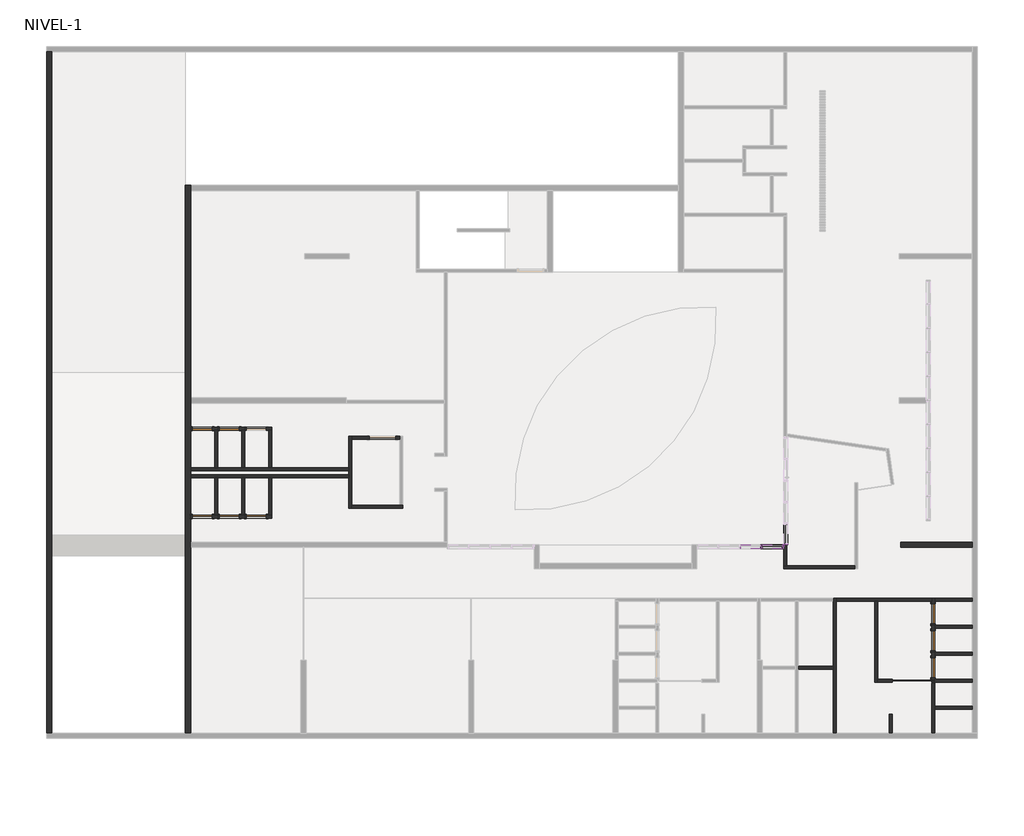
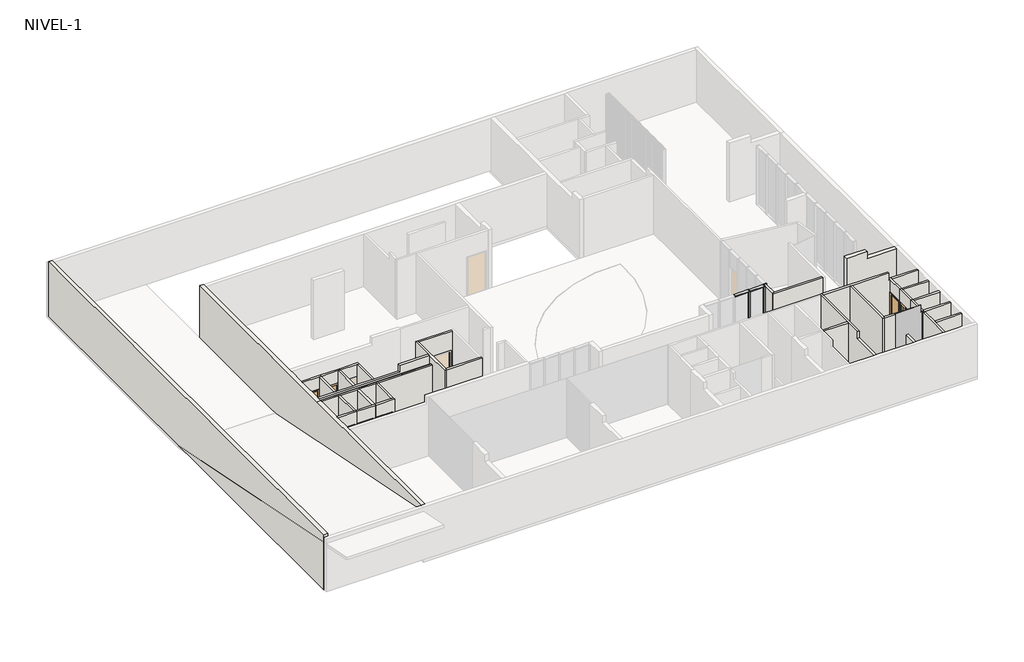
# One storey, part 2 of 4: 37 walls, 10 members, 8 doors, 2 plates.
"""IFC4 building model written with IfcOpenShell, lengths in millimetres."""

from ifc_helpers import new_model, si_unit, frame, origin, place, context, project, spatial, polyline, outline, extrude, faceted_brep, transform, mapped, element, save
from components import m_single_flush_750x_225_070f6889, m_single_flush_750x_225_ddc8b89c, rectangular_mullion_50_x_150mm_86a57cfb, rectangular_mullion_50_x_150mm_ddcdbc05, rectangular_mullion_50_x_150mm_77bbb7d4, rectangular_mullion_50_x_150mm_d1ed8723, rectangular_mullion_50_x_150mm_c6357429, rectangular_mullion_50_x_150mm_548d5156, system_panel_cr_shower_f60a3f7b, system_panel_glazed_255c200d

model = new_model("IFC4")

# Units and contexts
model_context = context("Model", 3, world=origin())
ifc_project = project(units=[si_unit("LENGTHUNIT", "METRE", prefix="MILLI")], contexts=[model_context])

# Site, building, storey
site = spatial("IfcSite", under=ifc_project)
building = spatial("IfcBuilding", under=site)
storey = spatial("IfcBuildingStorey", under=building, Name="NIVEL-1", Elevation=-4500.0)

# Doors
placement = place(None, origin())
m_single_flush_750x_225_shape = m_single_flush_750x_225_070f6889(model_context)
element("IfcDoor", 1, ObjectType="M_Single-Flush : 750x 225", at=placement, inside=storey, context=model_context, shape_type="MappedRepresentation", body=[
    mapped(m_single_flush_750x_225_shape, transform((-22659.3934748, 788.9139241, -4500.0), x_axis=(-1.0, 0.0, 0.0), y_axis=(0.0, -1.0, 0.0), z_axis=(0.0, 0.0, 1.0))),
])
element("IfcDoor", 2, ObjectType="M_Single-Flush : 750x 225", at=placement, inside=storey, context=model_context, shape_type="MappedRepresentation", body=[
    mapped(m_single_flush_750x_225_shape, transform((-21649.3934748, 788.9139241, -4500.0), x_axis=(-1.0, 0.0, 0.0), y_axis=(0.0, -1.0, 0.0), z_axis=(0.0, 0.0, 1.0))),
])
element("IfcDoor", 3, ObjectType="M_Single-Flush : 750x 225", at=placement, inside=storey, context=model_context, shape_type="MappedRepresentation", body=[
    mapped(m_single_flush_750x_225_shape, transform((-20639.3934748, 788.9139241, -4500.0), x_axis=(-1.0, 0.0, 0.0), y_axis=(0.0, -1.0, 0.0), z_axis=(0.0, 0.0, 1.0))),
])
m_single_flush_750x_225_2_shape = m_single_flush_750x_225_ddc8b89c(model_context)
element("IfcDoor", 4, ObjectType="M_Single-Flush : 750x 225", at=placement, inside=storey, context=model_context, shape_type="MappedRepresentation", body=[
    mapped(m_single_flush_750x_225_2_shape, transform((-22659.3934748, 4078.9139241, -4500.0), x_axis=(-1.0, 0.0, 0.0), y_axis=(0.0, -1.0, 0.0), z_axis=(0.0, 0.0, 1.0))),
])
element("IfcDoor", 5, ObjectType="M_Single-Flush : 750x 225", at=placement, inside=storey, context=model_context, shape_type="MappedRepresentation", body=[
    mapped(m_single_flush_750x_225_2_shape, transform((-21649.3934748, 4078.9139241, -4500.0), x_axis=(-1.0, 0.0, 0.0), y_axis=(0.0, -1.0, 0.0), z_axis=(0.0, 0.0, 1.0))),
])
element("IfcDoor", 6, ObjectType="M_Single-Flush : 750x 225", at=placement, inside=storey, context=model_context, shape_type="MappedRepresentation", body=[
    mapped(m_single_flush_750x_225_2_shape, transform((4706.4065252, -4871.0860759, -4500.0), x_axis=(0.0, -1.0, 0.0), y_axis=(1.0, 0.0, 0.0), z_axis=(0.0, 0.0, 1.0))),
])
element("IfcDoor", 7, ObjectType="M_Single-Flush : 750x 225", at=placement, inside=storey, context=model_context, shape_type="MappedRepresentation", body=[
    mapped(m_single_flush_750x_225_2_shape, transform((4706.4065252, -3861.0860759, -4500.0), x_axis=(0.0, -1.0, 0.0), y_axis=(1.0, 0.0, 0.0), z_axis=(0.0, 0.0, 1.0))),
])
element("IfcDoor", 8, ObjectType="M_Single-Flush : 750x 225", at=placement, inside=storey, context=model_context, shape_type="MappedRepresentation", body=[
    mapped(m_single_flush_750x_225_2_shape, transform((4706.4065252, -2851.0860759, -4500.0), x_axis=(0.0, -1.0, 0.0), y_axis=(1.0, 0.0, 0.0), z_axis=(0.0, 0.0, 1.0))),
])

# Members
rectangular_mullion_50_x_150mm_shape = rectangular_mullion_50_x_150mm_86a57cfb(model_context)
element("IfcMember", 9, ObjectType="Rectangular Mullion : 50 x 150mm", at=placement, inside=storey, context=model_context, shape_type="MappedRepresentation", body=[
    mapped(rectangular_mullion_50_x_150mm_shape, transform((-1718.5934745, -341.0860759, -4520.0), x_axis=(1.0, 0.0, 0.0), y_axis=(0.0, -1.0, 0.0), z_axis=(0.0, 0.0, -1.0))),
])
element("IfcMember", 10, ObjectType="Rectangular Mullion : 50 x 150mm", at=placement, inside=storey, context=model_context, shape_type="MappedRepresentation", body=[
    mapped(rectangular_mullion_50_x_150mm_shape, transform((-913.5934745, -341.0860759, -4520.0), x_axis=(1.0, 0.0, 0.0), y_axis=(0.0, -1.0, 0.0), z_axis=(0.0, 0.0, -1.0))),
])
rectangular_mullion_50_x_150mm_2_shape = rectangular_mullion_50_x_150mm_ddcdbc05(model_context)
element("IfcMember", 11, ObjectType="Rectangular Mullion : 50 x 150mm", at=placement, inside=storey, context=model_context, shape_type="MappedRepresentation", body=[
    mapped(rectangular_mullion_50_x_150mm_2_shape, transform((-808.5934748, -226.0860763, -4520.0), x_axis=(0.0, 0.0, -1.0), y_axis=(1.0, 0.0, 0.0), z_axis=(0.0, -1.0, 0.0))),
])
rectangular_mullion_50_x_150mm_3_shape = rectangular_mullion_50_x_150mm_77bbb7d4(model_context)
element("IfcMember", 12, ObjectType="Rectangular Mullion : 50 x 150mm", at=placement, inside=storey, context=model_context, shape_type="MappedRepresentation", body=[
    mapped(rectangular_mullion_50_x_150mm_3_shape, transform((-1743.5934745, -341.0860759, -1170.0), x_axis=(0.0, 0.0, 1.0), y_axis=(0.0, -1.0, 0.0), z_axis=(1.0, 0.0, 0.0))),
])
element("IfcMember", 13, ObjectType="Rectangular Mullion : 50 x 150mm", at=placement, inside=storey, context=model_context, shape_type="MappedRepresentation", body=[
    mapped(rectangular_mullion_50_x_150mm_3_shape, transform((-938.5934745, -341.0860759, -1170.0), x_axis=(0.0, 0.0, 1.0), y_axis=(0.0, -1.0, 0.0), z_axis=(1.0, 0.0, 0.0))),
])
element("IfcMember", 14, ObjectType="Rectangular Mullion : 50 x 150mm", at=placement, inside=storey, context=model_context, shape_type="MappedRepresentation", body=[
    mapped(rectangular_mullion_50_x_150mm_3_shape, transform((-1693.5934745, -341.0860759, -4520.0), x_axis=(0.0, 0.0, -1.0), y_axis=(0.0, -1.0, 0.0), z_axis=(-1.0, 0.0, 0.0))),
])
rectangular_mullion_50_x_150mm_4_shape = rectangular_mullion_50_x_150mm_d1ed8723(model_context)
element("IfcMember", 15, ObjectType="Rectangular Mullion : 50 x 150mm", at=placement, inside=storey, context=model_context, shape_type="MappedRepresentation", body=[
    mapped(rectangular_mullion_50_x_150mm_4_shape, transform((-883.5934748, -341.0860759, -1170.0), x_axis=(0.0, 0.0, 1.0), y_axis=(0.0, -1.0, 0.0), z_axis=(1.0, 0.0, 0.0))),
])
element("IfcMember", 16, ObjectType="Rectangular Mullion : 50 x 150mm", at=placement, inside=storey, context=model_context, shape_type="MappedRepresentation", body=[
    mapped(rectangular_mullion_50_x_150mm_4_shape, transform((-888.5934745, -341.0860759, -4520.0), x_axis=(0.0, 0.0, -1.0), y_axis=(0.0, -1.0, 0.0), z_axis=(-1.0, 0.0, 0.0))),
])
rectangular_mullion_50_x_150mm_5_shape = rectangular_mullion_50_x_150mm_c6357429(model_context)
element("IfcMember", 17, ObjectType="Rectangular Mullion : 50 x 150mm", at=placement, inside=storey, context=model_context, shape_type="MappedRepresentation", body=[
    mapped(rectangular_mullion_50_x_150mm_5_shape, transform((-808.5934748, -276.0860763, -1170.0), x_axis=(0.0, -1.0, 0.0), y_axis=(1.0, 0.0, 0.0), z_axis=(0.0, 0.0, 1.0))),
])
rectangular_mullion_50_x_150mm_6_shape = rectangular_mullion_50_x_150mm_548d5156(model_context)
element("IfcMember", 18, ObjectType="Rectangular Mullion : 50 x 150mm", at=placement, inside=storey, context=model_context, shape_type="MappedRepresentation", body=[
    mapped(rectangular_mullion_50_x_150mm_6_shape, transform((-808.5934748, -276.0860763, -2075.0), x_axis=(0.0, -1.0, 0.0), y_axis=(1.0, 0.0, 0.0), z_axis=(0.0, 0.0, 1.0))),
])

# Plates
system_panel_cr_shower_shape = system_panel_cr_shower_f60a3f7b(model_context)
element("IfcPlate", 19, ObjectType="System Panel : CR-SHOWER", at=placement, inside=storey, context=model_context, shape_type="MappedRepresentation", body=[
    mapped(system_panel_cr_shower_shape, transform((3941.4065252, -5357.0860759, -4520.0), x_axis=(1.0, 0.0, 0.0), y_axis=(0.0, 1.0, 0.0), z_axis=(0.0, 0.0, 1.0))),
])
system_panel_glazed_shape = system_panel_glazed_255c200d(model_context)
element("IfcPlate", 20, ObjectType="System Panel : Glazed", at=placement, inside=storey, context=model_context, shape_type="MappedRepresentation", body=[
    mapped(system_panel_glazed_shape, transform((-886.0934747, -341.0860759, -4470.0), x_axis=(1.0, 0.0, 0.0), y_axis=(0.0, 1.0, 0.0), z_axis=(0.0, 0.0, 1.0))),
])

# Walls
element("IfcWall", 21, ObjectType="SCV.TI.A.110.090.143.47.1", at=placement, inside=storey, context=model_context, shape_type="Brep", body=[
    faceted_brep([(-23084.3934748, 2508.9139241, -4520.0), (-17163.5934748, 2508.9139241, -4520.0), (-17163.5934748, 2508.9139241, -1170.0), (-18758.5934748, 2508.9139241, -1170.0), (-18758.5934748, 2508.9139241, -1550.0), (-23084.3934748, 2508.9139241, -1550.0), (-23084.3934748, 2618.9139241, -4520.0), (-23084.3934748, 2618.9139241, -1550.0), (-22184.3934748, 2618.9139241, -1550.0), (-22074.3934748, 2618.9139241, -1550.0), (-21174.3934748, 2618.9139241, -1550.0), (-21064.3934748, 2618.9139241, -1550.0), (-20164.3934748, 2618.9139241, -1550.0), (-20054.3934748, 2618.9139241, -1550.0), (-18758.5934748, 2618.9139241, -1550.0), (-18758.5934748, 2618.9139241, -1170.0), (-17163.5934748, 2618.9139241, -1170.0), (-17163.5934748, 2618.9139241, -4520.0), (-20054.3934748, 2618.9139241, -4520.0), (-20164.3934748, 2618.9139241, -4520.0), (-21064.3934748, 2618.9139241, -4520.0), (-21174.3934748, 2618.9139241, -4520.0), (-22074.3934748, 2618.9139241, -4520.0), (-22184.3934748, 2618.9139241, -4520.0)], [[[0, 1, 2, 3, 4, 5]], [[6, 7, 8, 9, 10, 11, 12, 13, 14, 15, 16, 17, 18, 19, 20, 21, 22, 23]], [[1, 0, 6, 23, 22, 21, 20, 19, 18, 17]], [[0, 5, 7, 6]], [[2, 1, 17, 16]], [[3, 2, 16, 15]], [[3, 15, 14, 4]], [[5, 4, 14, 13, 12, 11, 10, 9, 8, 7]]]),
])
element("IfcWall", 22, ObjectType="SCV.TI.A.110.090.143.47.1", at=placement, inside=storey, context=model_context, shape_type="Brep", body=[
    faceted_brep([(-17163.5934748, 2358.9139241, -4520.0), (-23084.3934748, 2358.9139241, -4520.0), (-23084.3934748, 2358.9139241, -1550.0), (-18758.5934748, 2358.9139241, -1550.0), (-17163.5934748, 2358.9139241, -1550.0), (-17163.5934748, 2248.9139241, -4520.0), (-17163.5934748, 2248.9139241, -1550.0), (-18758.5934748, 2248.9139241, -1550.0), (-20054.3934748, 2248.9139241, -1550.0), (-20164.3934748, 2248.9139241, -1550.0), (-21064.3934748, 2248.9139241, -1550.0), (-21174.3934748, 2248.9139241, -1550.0), (-22074.3934748, 2248.9139241, -1550.0), (-22184.3934748, 2248.9139241, -1550.0), (-23084.3934748, 2248.9139241, -1550.0), (-23084.3934748, 2248.9139241, -4520.0), (-22184.3934748, 2248.9139241, -4520.0), (-22074.3934748, 2248.9139241, -4520.0), (-21174.3934748, 2248.9139241, -4520.0), (-21064.3934748, 2248.9139241, -4520.0), (-20164.3934748, 2248.9139241, -4520.0), (-20054.3934748, 2248.9139241, -4520.0), (-23084.3934748, 2333.9139237, -1550.0), (-17163.5934748, 2333.9139237, -1550.0), (-18758.5934748, 2333.9139237, -1550.0)], [[[0, 1, 2, 3, 4]], [[5, 6, 7, 8, 9, 10, 11, 12, 13, 14, 15, 16, 17, 18, 19, 20, 21]], [[1, 0, 5, 21, 20, 19, 18, 17, 16, 15]], [[2, 1, 15, 14, 22]], [[0, 4, 23, 6, 5]], [[22, 14, 13, 12, 11, 10, 9, 8, 7, 24]], [[4, 3, 24, 23]], [[24, 7, 6, 23]], [[3, 2, 22, 24]]]),
])
element("IfcWall", 23, ObjectType="SCV.TI.A.110.090.143.47.1", at=placement, inside=storey, context=model_context, shape_type="Brep", body=[
    faceted_brep([(-17163.5934748, 3788.9139241, -4520.0), (-17163.5934748, 2618.9139241, -4520.0), (-17163.5934748, 2508.9139241, -4520.0), (-17163.5934748, 2358.9139241, -4520.0), (-17163.5934748, 2248.9139241, -4520.0), (-17163.5934748, 1093.9139241, -4520.0), (-17163.5934748, 1093.9139241, -1170.0), (-17163.5934748, 2508.9139241, -1170.0), (-17163.5934748, 2618.9139241, -1170.0), (-17163.5934748, 3788.9139241, -1170.0), (-17053.5934748, 3788.9139241, -4520.0), (-17053.5934748, 3788.9139241, -1170.0), (-17053.5934748, 3678.9139241, -1170.0), (-17053.5934748, 1203.9139241, -1170.0), (-17053.5934748, 1093.9139241, -1170.0), (-17053.5934748, 1093.9139241, -4520.0), (-17053.5934748, 1203.9139241, -4520.0), (-17053.5934748, 3678.9139241, -4520.0)], [[[0, 1, 2, 3, 4, 5, 6, 7, 8, 9]], [[10, 11, 12, 13, 14, 15, 16, 17]], [[5, 4, 3, 2, 1, 0, 10, 17, 16, 15]], [[9, 8, 7, 6, 14, 13, 12, 11]], [[0, 9, 11, 10]], [[6, 5, 15, 14]]]),
])
element("IfcWall", 24, ObjectType="SCV.TI.A.110.090.143.47.1", at=placement, inside=storey, context=model_context, shape_type="Brep", body=[
    faceted_brep([(-23084.3934748, 733.9139241, -4520.0), (-22074.3934748, 733.9139241, -4520.0), (-22074.3934748, 733.9139241, -1550.0), (-23084.3934748, 733.9139241, -1550.0), (-22284.3934748, 733.9139241, -4500.0), (-23034.3934748, 733.9139241, -4500.0), (-23034.3934748, 733.9139241, -2300.0), (-22284.3934748, 733.9139241, -2300.0), (-22074.3934748, 843.9139241, -4520.0), (-22184.3934748, 843.9139241, -4520.0), (-23084.3934748, 843.9139241, -4520.0), (-23084.3934748, 843.9139241, -1550.0), (-22184.3934748, 843.9139241, -1550.0), (-22074.3934748, 843.9139241, -1550.0), (-23034.3934748, 843.9139241, -4500.0), (-22284.3934748, 843.9139241, -4500.0), (-22284.3934748, 843.9139241, -2300.0), (-23034.3934748, 843.9139241, -2300.0)], [[[0, 1, 2, 3], [4, 5, 6, 7]], [[8, 9, 10, 11, 12, 13], [14, 15, 16, 17]], [[1, 0, 10, 9, 8]], [[4, 15, 14, 5]], [[6, 17, 16, 7]], [[15, 4, 7, 16]], [[17, 6, 5, 14]], [[2, 1, 8, 13]], [[0, 3, 11, 10]], [[3, 2, 13, 12, 11]]]),
])
element("IfcWall", 25, ObjectType="SCV.TI.A.110.090.143.47.1", at=placement, inside=storey, context=model_context, shape_type="SweptSolid", body=[
    extrude(outline(polyline([(-22074.3934748, 2248.9139241), (-22074.3934748, 843.9139241), (-22184.3934748, 843.9139241), (-22184.3934748, 2248.9139241), (-22074.3934748, 2248.9139241)])), frame((0.0, 0.0, -4520.0), z_axis=(0.0, 0.0, 1.0), x_axis=(1.0, 0.0, 0.0)), (0.0, 0.0, 1.0), 2970.0),
])
element("IfcWall", 26, ObjectType="SCV.TI.A.110.090.143.47.1", at=placement, inside=storey, context=model_context, shape_type="Brep", body=[
    faceted_brep([(-22074.3934748, 733.9139241, -4520.0), (-21064.3934748, 733.9139241, -4520.0), (-21064.3934748, 733.9139241, -1550.0), (-22074.3934748, 733.9139241, -1550.0), (-21274.3934748, 733.9139241, -4500.0), (-22024.3934748, 733.9139241, -4500.0), (-22024.3934748, 733.9139241, -2300.0), (-21274.3934748, 733.9139241, -2300.0), (-21064.3934748, 843.9139241, -4520.0), (-21174.3934748, 843.9139241, -4520.0), (-22074.3934748, 843.9139241, -4520.0), (-22074.3934748, 843.9139241, -1550.0), (-21174.3934748, 843.9139241, -1550.0), (-21064.3934748, 843.9139241, -1550.0), (-22024.3934748, 843.9139241, -4500.0), (-21274.3934748, 843.9139241, -4500.0), (-21274.3934748, 843.9139241, -2300.0), (-22024.3934748, 843.9139241, -2300.0)], [[[0, 1, 2, 3], [4, 5, 6, 7]], [[8, 9, 10, 11, 12, 13], [14, 15, 16, 17]], [[1, 0, 10, 9, 8]], [[4, 15, 14, 5]], [[6, 17, 16, 7]], [[15, 4, 7, 16]], [[17, 6, 5, 14]], [[2, 1, 8, 13]], [[0, 3, 11, 10]], [[3, 2, 13, 12, 11]]]),
])
element("IfcWall", 27, ObjectType="SCV.TI.A.110.090.143.47.1", at=placement, inside=storey, context=model_context, shape_type="SweptSolid", body=[
    extrude(outline(polyline([(-21064.3934748, 2248.9139241), (-21064.3934748, 843.9139241), (-21174.3934748, 843.9139241), (-21174.3934748, 2248.9139241), (-21064.3934748, 2248.9139241)])), frame((0.0, 0.0, -4520.0), z_axis=(0.0, 0.0, 1.0), x_axis=(1.0, 0.0, 0.0)), (0.0, 0.0, 1.0), 2970.0),
])
element("IfcWall", 28, ObjectType="SCV.TI.A.110.090.143.47.1", at=placement, inside=storey, context=model_context, shape_type="Brep", body=[
    faceted_brep([(-21064.3934748, 733.9139241, -4520.0), (-20054.3934748, 733.9139241, -4520.0), (-20054.3934748, 733.9139241, -1550.0), (-21064.3934748, 733.9139241, -1550.0), (-20264.3934748, 733.9139241, -4500.0), (-21014.3934748, 733.9139241, -4500.0), (-21014.3934748, 733.9139241, -2300.0), (-20264.3934748, 733.9139241, -2300.0), (-20054.3934748, 843.9139241, -4520.0), (-20164.3934748, 843.9139241, -4520.0), (-21064.3934748, 843.9139241, -4520.0), (-21064.3934748, 843.9139241, -1550.0), (-20164.3934748, 843.9139241, -1550.0), (-20054.3934748, 843.9139241, -1550.0), (-21014.3934748, 843.9139241, -4500.0), (-20264.3934748, 843.9139241, -4500.0), (-20264.3934748, 843.9139241, -2300.0), (-21014.3934748, 843.9139241, -2300.0)], [[[0, 1, 2, 3], [4, 5, 6, 7]], [[8, 9, 10, 11, 12, 13], [14, 15, 16, 17]], [[1, 0, 10, 9, 8]], [[4, 15, 14, 5]], [[6, 17, 16, 7]], [[15, 4, 7, 16]], [[17, 6, 5, 14]], [[2, 1, 8, 13]], [[0, 3, 11, 10]], [[3, 2, 13, 12, 11]]]),
])
element("IfcWall", 29, ObjectType="SCV.TI.A.110.090.143.47.1", at=placement, inside=storey, context=model_context, shape_type="SweptSolid", body=[
    extrude(outline(polyline([(-20054.3934748, 2248.9139241), (-20054.3934748, 843.9139241), (-20164.3934748, 843.9139241), (-20164.3934748, 2248.9139241), (-20054.3934748, 2248.9139241)])), frame((0.0, 0.0, -4520.0), z_axis=(0.0, 0.0, 1.0), x_axis=(1.0, 0.0, 0.0)), (0.0, 0.0, 1.0), 2970.0),
])
element("IfcWall", 30, ObjectType="SCV.TI.A.110.090.143.47.1", at=placement, inside=storey, context=model_context, shape_type="Brep", body=[
    faceted_brep([(-23084.3934748, 4023.9139241, -4520.0), (-22184.3934748, 4023.9139241, -4520.0), (-22074.3934748, 4023.9139241, -4520.0), (-22074.3934748, 4023.9139241, -1550.0), (-22184.3934748, 4023.9139241, -1550.0), (-23084.3934748, 4023.9139241, -1550.0), (-22284.3934748, 4023.9139241, -4500.0), (-23034.3934748, 4023.9139241, -4500.0), (-23034.3934748, 4023.9139241, -2300.0), (-22284.3934748, 4023.9139241, -2300.0), (-22074.3934748, 4133.9139241, -4520.0), (-23084.3934748, 4133.9139241, -4520.0), (-23084.3934748, 4133.9139241, -1550.0), (-22074.3934748, 4133.9139241, -1550.0), (-23034.3934748, 4133.9139241, -4500.0), (-22284.3934748, 4133.9139241, -4500.0), (-22284.3934748, 4133.9139241, -2300.0), (-23034.3934748, 4133.9139241, -2300.0)], [[[0, 1, 2, 3, 4, 5], [6, 7, 8, 9]], [[10, 11, 12, 13], [14, 15, 16, 17]], [[2, 1, 0, 11, 10]], [[6, 15, 14, 7]], [[8, 17, 16, 9]], [[15, 6, 9, 16]], [[17, 8, 7, 14]], [[3, 2, 10, 13]], [[0, 5, 12, 11]], [[5, 4, 3, 13, 12]]]),
])
element("IfcWall", 31, ObjectType="SCV.TI.A.110.090.143.47.1", at=placement, inside=storey, context=model_context, shape_type="SweptSolid", body=[
    extrude(outline(polyline([(-22184.3934748, 2618.9139241), (-22184.3934748, 4023.9139241), (-22074.3934748, 4023.9139241), (-22074.3934748, 2618.9139241), (-22184.3934748, 2618.9139241)])), frame((0.0, 0.0, -4520.0), z_axis=(0.0, 0.0, 1.0), x_axis=(1.0, 0.0, 0.0)), (0.0, 0.0, 1.0), 2970.0),
])
element("IfcWall", 32, ObjectType="SCV.TI.A.110.090.143.47.1", at=placement, inside=storey, context=model_context, shape_type="Brep", body=[
    faceted_brep([(-22074.3934748, 4023.9139241, -4520.0), (-21174.3934748, 4023.9139241, -4520.0), (-21064.3934748, 4023.9139241, -4520.0), (-21064.3934748, 4023.9139241, -1550.0), (-21174.3934748, 4023.9139241, -1550.0), (-22074.3934748, 4023.9139241, -1550.0), (-21274.3934748, 4023.9139241, -4500.0), (-22024.3934748, 4023.9139241, -4500.0), (-22024.3934748, 4023.9139241, -2300.0), (-21274.3934748, 4023.9139241, -2300.0), (-21064.3934748, 4133.9139241, -4520.0), (-22074.3934748, 4133.9139241, -4520.0), (-22074.3934748, 4133.9139241, -1550.0), (-21064.3934748, 4133.9139241, -1550.0), (-22024.3934748, 4133.9139241, -4500.0), (-21274.3934748, 4133.9139241, -4500.0), (-21274.3934748, 4133.9139241, -2300.0), (-22024.3934748, 4133.9139241, -2300.0)], [[[0, 1, 2, 3, 4, 5], [6, 7, 8, 9]], [[10, 11, 12, 13], [14, 15, 16, 17]], [[2, 1, 0, 11, 10]], [[6, 15, 14, 7]], [[8, 17, 16, 9]], [[15, 6, 9, 16]], [[17, 8, 7, 14]], [[3, 2, 10, 13]], [[0, 5, 12, 11]], [[5, 4, 3, 13, 12]]]),
])
element("IfcWall", 33, ObjectType="SCV.TI.A.110.090.143.47.1", at=placement, inside=storey, context=model_context, shape_type="SweptSolid", body=[
    extrude(outline(polyline([(-21174.3934748, 2618.9139241), (-21174.3934748, 4023.9139241), (-21064.3934748, 4023.9139241), (-21064.3934748, 2618.9139241), (-21174.3934748, 2618.9139241)])), frame((0.0, 0.0, -4520.0), z_axis=(0.0, 0.0, 1.0), x_axis=(1.0, 0.0, 0.0)), (0.0, 0.0, 1.0), 2970.0),
])
element("IfcWall", 34, ObjectType="SCV.TI.A.110.090.143.47.1", at=placement, inside=storey, context=model_context, shape_type="Brep", body=[
    faceted_brep([(-21064.3934748, 4023.9139241, -4520.0), (-20164.3934748, 4023.9139241, -4520.0), (-20054.3934748, 4023.9139241, -4520.0), (-20054.3934748, 4023.9139241, -1550.0), (-20164.3934748, 4023.9139241, -1550.0), (-21064.3934748, 4023.9139241, -1550.0), (-20264.3934748, 4023.9139241, -4500.0), (-21014.3934748, 4023.9139241, -4500.0), (-21014.3934748, 4023.9139241, -2300.0), (-20264.3934748, 4023.9139241, -2300.0), (-20054.3934748, 4133.9139241, -4520.0), (-21064.3934748, 4133.9139241, -4520.0), (-21064.3934748, 4133.9139241, -1550.0), (-20054.3934748, 4133.9139241, -1550.0), (-21014.3934748, 4133.9139241, -4500.0), (-20264.3934748, 4133.9139241, -4500.0), (-20264.3934748, 4133.9139241, -2300.0), (-21014.3934748, 4133.9139241, -2300.0)], [[[0, 1, 2, 3, 4, 5], [6, 7, 8, 9]], [[10, 11, 12, 13], [14, 15, 16, 17]], [[2, 1, 0, 11, 10]], [[6, 15, 14, 7]], [[8, 17, 16, 9]], [[15, 6, 9, 16]], [[17, 8, 7, 14]], [[3, 2, 10, 13]], [[0, 5, 12, 11]], [[5, 4, 3, 13, 12]]]),
])
element("IfcWall", 35, ObjectType="SCV.TI.A.110.090.143.47.1", at=placement, inside=storey, context=model_context, shape_type="SweptSolid", body=[
    extrude(outline(polyline([(-20164.3934748, 2618.9139241), (-20164.3934748, 4023.9139241), (-20054.3934748, 4023.9139241), (-20054.3934748, 2618.9139241), (-20164.3934748, 2618.9139241)])), frame((0.0, 0.0, -4520.0), z_axis=(0.0, 0.0, 1.0), x_axis=(1.0, 0.0, 0.0)), (0.0, 0.0, 1.0), 2970.0),
])
element("IfcWall", 36, ObjectType="SCV.TI.A.110.090.143.47.1", at=placement, inside=storey, context=model_context, shape_type="Brep", body=[
    faceted_brep([(4761.4065252, -5406.0860759, -4520.0), (4761.4065252, -5296.0860759, -4520.0), (4761.4065252, -4396.0860759, -4520.0), (4761.4065252, -4286.0860759, -4520.0), (4761.4065252, -4286.0860759, -1550.0), (4761.4065252, -4396.0860759, -1550.0), (4761.4065252, -5296.0860759, -1550.0), (4761.4065252, -5406.0860759, -1550.0), (4761.4065252, -4496.0860759, -4500.0), (4761.4065252, -5246.0860759, -4500.0), (4761.4065252, -5246.0860759, -2300.0), (4761.4065252, -4496.0860759, -2300.0), (4651.4065252, -4286.0860759, -4520.0), (4651.4065252, -5406.0860759, -4520.0), (4651.4065252, -5406.0860759, -1550.0), (4651.4065252, -4286.0860759, -1550.0), (4651.4065252, -5246.0860759, -4500.0), (4651.4065252, -4496.0860759, -4500.0), (4651.4065252, -4496.0860759, -2300.0), (4651.4065252, -5246.0860759, -2300.0)], [[[0, 1, 2, 3, 4, 5, 6, 7], [8, 9, 10, 11]], [[12, 13, 14, 15], [16, 17, 18, 19]], [[3, 2, 1, 0, 13, 12]], [[8, 17, 16, 9]], [[10, 19, 18, 11]], [[17, 8, 11, 18]], [[19, 10, 9, 16]], [[4, 3, 12, 15]], [[0, 7, 14, 13]], [[7, 6, 5, 4, 15, 14]]]),
])
element("IfcWall", 37, ObjectType="SCV.TI.A.110.090.143.47.1", at=placement, inside=storey, context=model_context, shape_type="SweptSolid", body=[
    extrude(outline(polyline([(6166.4065252, -4396.0860759), (4761.4065252, -4396.0860759), (4761.4065252, -4286.0860759), (6166.4065252, -4286.0860759), (6166.4065252, -4396.0860759)])), frame((0.0, 0.0, -4520.0), z_axis=(0.0, 0.0, 1.0), x_axis=(1.0, 0.0, 0.0)), (0.0, 0.0, 1.0), 2970.0),
])
element("IfcWall", 38, ObjectType="SCV.TI.A.110.090.143.47.1", at=placement, inside=storey, context=model_context, shape_type="Brep", body=[
    faceted_brep([(4761.4065252, -4286.0860759, -4520.0), (4761.4065252, -3386.0860759, -4520.0), (4761.4065252, -3276.0860759, -4520.0), (4761.4065252, -3276.0860759, -1550.0), (4761.4065252, -3386.0860759, -1550.0), (4761.4065252, -4286.0860759, -1550.0), (4761.4065252, -3486.0860759, -4500.0), (4761.4065252, -4236.0860759, -4500.0), (4761.4065252, -4236.0860759, -2300.0), (4761.4065252, -3486.0860759, -2300.0), (4651.4065252, -3276.0860759, -4520.0), (4651.4065252, -4286.0860759, -4520.0), (4651.4065252, -4286.0860759, -1550.0), (4651.4065252, -3276.0860759, -1550.0), (4651.4065252, -4236.0860759, -4500.0), (4651.4065252, -3486.0860759, -4500.0), (4651.4065252, -3486.0860759, -2300.0), (4651.4065252, -4236.0860759, -2300.0)], [[[0, 1, 2, 3, 4, 5], [6, 7, 8, 9]], [[10, 11, 12, 13], [14, 15, 16, 17]], [[2, 1, 0, 11, 10]], [[6, 15, 14, 7]], [[8, 17, 16, 9]], [[15, 6, 9, 16]], [[17, 8, 7, 14]], [[3, 2, 10, 13]], [[11, 0, 5, 12]], [[5, 4, 3, 13, 12]]]),
])
element("IfcWall", 39, ObjectType="SCV.TI.A.110.090.143.47.1", at=placement, inside=storey, context=model_context, shape_type="SweptSolid", body=[
    extrude(outline(polyline([(6166.4065252, -3386.0860759), (4761.4065252, -3386.0860759), (4761.4065252, -3276.0860759), (6166.4065252, -3276.0860759), (6166.4065252, -3386.0860759)])), frame((0.0, 0.0, -4520.0), z_axis=(0.0, 0.0, 1.0), x_axis=(1.0, 0.0, 0.0)), (0.0, 0.0, 1.0), 2970.0),
])
element("IfcWall", 40, ObjectType="SCV.TI.A.110.090.143.47.1", at=placement, inside=storey, context=model_context, shape_type="Brep", body=[
    faceted_brep([(4761.4065252, -3276.0860759, -4520.0), (4761.4065252, -2376.0860759, -4520.0), (4761.4065252, -2266.0860759, -4520.0), (4761.4065252, -2266.0860759, -1550.0), (4761.4065252, -2376.0860759, -1550.0), (4761.4065252, -3276.0860759, -1550.0), (4761.4065252, -2476.0860759, -4500.0), (4761.4065252, -3226.0860759, -4500.0), (4761.4065252, -3226.0860759, -2300.0), (4761.4065252, -2476.0860759, -2300.0), (4651.4065252, -2266.0860759, -4520.0), (4651.4065252, -2376.0860759, -4520.0), (4651.4065252, -3276.0860759, -4520.0), (4651.4065252, -3276.0860759, -1550.0), (4651.4065252, -2376.0860759, -1550.0), (4651.4065252, -2266.0860759, -1550.0), (4651.4065252, -3226.0860759, -4500.0), (4651.4065252, -2476.0860759, -4500.0), (4651.4065252, -2476.0860759, -2300.0), (4651.4065252, -3226.0860759, -2300.0)], [[[0, 1, 2, 3, 4, 5], [6, 7, 8, 9]], [[10, 11, 12, 13, 14, 15], [16, 17, 18, 19]], [[2, 1, 0, 12, 11, 10]], [[6, 17, 16, 7]], [[8, 19, 18, 9]], [[17, 6, 9, 18]], [[19, 8, 7, 16]], [[3, 2, 10, 15]], [[12, 0, 5, 13]], [[5, 4, 3, 15, 14, 13]]]),
])
element("IfcWall", 41, ObjectType="SCV.TI.A.110.090.143.47.1", at=placement, inside=storey, context=model_context, shape_type="SweptSolid", body=[
    extrude(outline(polyline([(6166.4065252, -2376.0860759), (4761.4065252, -2376.0860759), (4761.4065252, -2266.0860759), (6166.4065252, -2266.0860759), (6166.4065252, -2376.0860759)])), frame((0.0, 0.0, -4520.0), z_axis=(0.0, 0.0, 1.0), x_axis=(1.0, 0.0, 0.0)), (0.0, 0.0, 1.0), 2970.0),
])
element("IfcWall", 42, ObjectType="SCV.TI.A.110.090.143.47.1", at=placement, inside=storey, context=model_context, shape_type="SweptSolid", body=[
    extrude(outline(polyline([(6166.4065252, -5406.0860759), (4761.4065252, -5406.0860759), (4761.4065252, -5296.0860759), (6166.4065252, -5296.0860759), (6166.4065252, -5406.0860759)])), frame((0.0, 0.0, -4520.0), z_axis=(0.0, 0.0, 1.0), x_axis=(1.0, 0.0, 0.0)), (0.0, 0.0, 1.0), 2970.0),
])
element("IfcWall", 43, ObjectType="SCV.TI.A.110.090.143.47.1", at=placement, inside=storey, context=model_context, shape_type="Brep", body=[
    faceted_brep([(2516.4065252, -2376.0860759, -4520.0), (2516.4065252, -5412.0860759, -4520.0), (2516.4065252, -5412.0860759, -1170.0), (2516.4065252, -2376.0860759, -1170.0), (2626.4065252, -2376.0860759, -4520.0), (2626.4065252, -2376.0860759, -1170.0), (2626.4065252, -5302.0860759, -1170.0), (2626.4065252, -5412.0860759, -1170.0), (2626.4065252, -5412.0860759, -4520.0), (2626.4065252, -5302.0860759, -4520.0)], [[[0, 1, 2, 3]], [[4, 5, 6, 7, 8, 9]], [[1, 0, 4, 9, 8]], [[3, 2, 7, 6, 5]], [[2, 1, 8, 7]], [[0, 3, 5, 4]]]),
])
element("IfcWall", 44, ObjectType="SCV.TI.A.110.090.143.47.1", at=placement, inside=storey, context=model_context, shape_type="SweptSolid", body=[
    extrude(outline(polyline([(2626.4065252, -5302.0860759), (3176.4065252, -5302.0860759), (3176.4065252, -5412.0860759), (2626.4065252, -5412.0860759), (2626.4065252, -5302.0860759)])), frame((0.0, 0.0, -4520.0), z_axis=(0.0, 0.0, 1.0), x_axis=(1.0, 0.0, 0.0)), (0.0, 0.0, 1.0), 3350.0),
])
element("IfcWall", 45, ObjectType="SCV.TI.A.110.090.143.47.1", at=placement, inside=storey, context=model_context, shape_type="SweptSolid", body=[
    extrude(outline(polyline([(3066.4065252, -7316.0860759), (3066.4065252, -6616.0860759), (3176.4065252, -6616.0860759), (3176.4065252, -7316.0860759), (3066.4065252, -7316.0860759)])), frame((0.0, 0.0, -4520.0), z_axis=(0.0, 0.0, 1.0), x_axis=(1.0, 0.0, 0.0)), (0.0, 0.0, 1.0), 2970.0),
])
element("IfcWall", 46, ObjectType="SCV.TI.A.110.090.143.47.1", at=placement, inside=storey, context=model_context, shape_type="SweptSolid", body=[
    extrude(outline(polyline([(-773.5934748, -276.0860763), (-773.5934748, -1056.0860759), (-883.5934748, -1056.0860759), (-883.5934748, -276.0860763), (-773.5934748, -276.0860763)])), frame((0.0, 0.0, -4520.0), z_axis=(0.0, 0.0, 1.0), x_axis=(1.0, 0.0, 0.0)), (0.0, 0.0, 1.0), 3350.0),
])
element("IfcWall", 47, ObjectType="SCV.TI.A.110.090.143.47.1", at=placement, inside=storey, context=model_context, shape_type="Brep", body=[
    faceted_brep([(1771.4065252, -1056.0860759, -4520.0), (-773.5934748, -1056.0860759, -4520.0), (-883.5934748, -1056.0860759, -4520.0), (-883.5934748, -1056.0860759, -1170.0), (-773.5934748, -1056.0860759, -1170.0), (1771.4065252, -1056.0860759, -1170.0), (1771.4065252, -1166.0860759, -4520.0), (1771.4065252, -1166.0860759, -1170.0), (-883.5934748, -1166.0860759, -1170.0), (-883.5934748, -1166.0860759, -4520.0)], [[[0, 1, 2, 3, 4, 5]], [[6, 7, 8, 9]], [[2, 1, 0, 6, 9]], [[5, 4, 3, 8, 7]], [[3, 2, 9, 8]], [[0, 5, 7, 6]]]),
])
element("IfcWall", 48, ObjectType="SCV.TI.A.110.120.141.44.1", at=placement, inside=storey, context=model_context, shape_type="SweptSolid", body=[
    extrude(outline(polyline([(-348.5934748, -4811.0860759), (966.4065252, -4811.0860759), (966.4065252, -4921.0860759), (-348.5934748, -4921.0860759), (-348.5934748, -4811.0860759)])), frame((0.0, 0.0, -4520.0), z_axis=(0.0, 0.0, 1.0), x_axis=(1.0, 0.0, 0.0)), (0.0, 0.0, 1.0), 3350.0),
])
element("IfcWall", 49, ObjectType="SCV.TI.A.110.120.141.44.1", at=placement, inside=storey, context=model_context, shape_type="Brep", body=[
    faceted_brep([(966.4065252, -2266.0860759, -4520.0), (966.4065252, -2376.0860759, -4520.0), (966.4065252, -4811.0860759, -4520.0), (966.4065252, -4921.0860759, -4520.0), (966.4065252, -7316.0860759, -4520.0), (966.4065252, -7316.0860759, -1550.0), (966.4065252, -5741.0860763, -1550.0), (966.4065252, -5741.0860763, -1170.0), (966.4065252, -4921.0860759, -1170.0), (966.4065252, -4811.0860759, -1170.0), (966.4065252, -2376.0860759, -1170.0), (966.4065252, -2266.0860759, -1170.0), (1076.4065252, -2266.0860759, -4520.0), (1076.4065252, -2266.0860759, -1170.0), (1076.4065252, -2376.0860759, -1170.0), (1076.4065252, -5741.0860763, -1170.0), (1076.4065252, -5741.0860763, -1550.0), (1076.4065252, -7316.0860759, -1550.0), (1076.4065252, -7316.0860759, -4520.0), (1076.4065252, -2376.0860759, -4520.0)], [[[0, 1, 2, 3, 4, 5, 6, 7, 8, 9, 10, 11]], [[12, 13, 14, 15, 16, 17, 18, 19]], [[4, 3, 2, 1, 0, 12, 19, 18]], [[5, 4, 18, 17]], [[0, 11, 13, 12]], [[11, 10, 9, 8, 7, 15, 14, 13]], [[15, 7, 6, 16]], [[6, 5, 17, 16]]]),
])
element("IfcWall", 50, ObjectType="SCV.TI.A.110.120.141.44.1", at=placement, inside=storey, context=model_context, shape_type="SweptSolid", body=[
    extrude(outline(polyline([(6166.4065252, -6430.0860759), (4761.4065252, -6430.0860759), (4761.4065252, -6320.0860759), (6166.4065252, -6320.0860759), (6166.4065252, -6430.0860759)])), frame((0.0, 0.0, -4520.0), z_axis=(0.0, 0.0, 1.0), x_axis=(1.0, 0.0, 0.0)), (0.0, 0.0, 1.0), 2970.0),
])
element("IfcWall", 51, ObjectType="SCV.TI.A.110.120.141.44.1", at=placement, inside=storey, context=model_context, shape_type="Brep", body=[
    faceted_brep([(4761.4065252, -7316.0860759, -4520.0), (4761.4065252, -6430.0860759, -4520.0), (4761.4065252, -6320.0860759, -4520.0), (4761.4065252, -5451.0860759, -4520.0), (4761.4065252, -5451.0860759, -1550.0), (4761.4065252, -6320.0860759, -1550.0), (4761.4065252, -6430.0860759, -1550.0), (4761.4065252, -7316.0860759, -1550.0), (4651.4065252, -7316.0860759, -4520.0), (4651.4065252, -7316.0860759, -1550.0), (4651.4065252, -5451.0860759, -1550.0), (4651.4065252, -5451.0860759, -4520.0)], [[[0, 1, 2, 3, 4, 5, 6, 7]], [[8, 9, 10, 11]], [[3, 2, 1, 0, 8, 11]], [[4, 3, 11, 10]], [[0, 7, 9, 8]], [[7, 6, 5, 4, 10, 9]]]),
])
element("IfcWall", 52, ObjectType="SCV.TI.A.110.090.143.47.1", at=placement, inside=storey, context=model_context, shape_type="SweptSolid", body=[
    extrude(outline(polyline([(-4520.0, -17053.5934748), (-4520.0, -15253.5934748), (-1170.0, -15253.5934748), (-1170.0, -17053.5934748), (-4520.0, -17053.5934748)]), holes=[polyline([(-4500.0, -15403.5934748), (-4500.0, -16403.5934748), (-2300.0, -16403.5934748), (-2300.0, -15403.5934748), (-4500.0, -15403.5934748)])]), frame((0.0, 3678.9139241, 0.0), z_axis=(0.0, 1.0, 0.0), x_axis=(0.0, 0.0, 1.0)), (0.0, 0.0, 1.0), 110.0),
])
element("IfcWall", 53, ObjectType="SCV.TI.A.110.090.143.47.1", at=placement, inside=storey, context=model_context, shape_type="Brep", body=[
    faceted_brep([(-17053.5934748, 1093.9139241, -4520.0), (-15143.5934748, 1093.9139241, -4520.0), (-15143.5934748, 1093.9139241, -1170.0), (-17053.5934748, 1093.9139241, -1170.0), (-17053.5934748, 1203.9139241, -4520.0), (-17053.5934748, 1203.9139241, -1170.0), (-15253.5934748, 1203.9139241, -1170.0), (-15143.5934748, 1203.9139241, -1170.0), (-15143.5934748, 1203.9139241, -4520.0), (-15253.5934748, 1203.9139241, -4520.0)], [[[0, 1, 2, 3]], [[4, 5, 6, 7, 8, 9]], [[1, 0, 4, 9, 8]], [[3, 2, 7, 6, 5]], [[2, 1, 8, 7]], [[0, 3, 5, 4]]]),
])
element("IfcWall", 54, ObjectType="SCV.TI.A.110.090.143.47.1", at=placement, inside=storey, context=model_context, shape_type="Brep", body=[
    faceted_brep([(1076.4065252, -2376.0860759, -4520.0), (2516.4065252, -2376.0860759, -4520.0), (2626.4065252, -2376.0860759, -4520.0), (4651.4065252, -2376.0860759, -4520.0), (4651.4065252, -2376.0860759, -1550.0), (4591.4065252, -2376.0860759, -1550.0), (4591.4065252, -2376.0860759, -1170.0), (2626.4065252, -2376.0860759, -1170.0), (2516.4065252, -2376.0860759, -1170.0), (1076.4065252, -2376.0860759, -1170.0), (1076.4065252, -2266.0860759, -4520.0), (1076.4065252, -2266.0860759, -1170.0), (4591.4065252, -2266.0860759, -1170.0), (4591.4065252, -2266.0860759, -1550.0), (4651.4065252, -2266.0860759, -1550.0), (4651.4065252, -2266.0860759, -4520.0)], [[[0, 1, 2, 3, 4, 5, 6, 7, 8, 9]], [[10, 11, 12, 13, 14, 15]], [[3, 2, 1, 0, 10, 15]], [[0, 9, 11, 10]], [[4, 3, 15, 14]], [[9, 8, 7, 6, 12, 11]], [[12, 6, 5, 13]], [[5, 4, 14, 13]]]),
])
element("IfcWall", 55, ObjectType="HA-200mm", at=placement, inside=storey, context=model_context, shape_type="Brep", body=[
    faceted_brep([(-23084.3934748, -7316.0860759, -4520.0), (-23084.3934748, -366.0860759, -4520.0), (-23084.3934748, -166.0860759, -4520.0), (-23084.3934748, 733.9139241, -4520.0), (-23084.3934748, 843.9139241, -4520.0), (-23084.3934748, 2248.9139241, -4520.0), (-23084.3934748, 2358.9139241, -4520.0), (-23084.3934748, 2508.9139241, -4520.0), (-23084.3934748, 2618.9139241, -4520.0), (-23084.3934748, 4023.9139241, -4520.0), (-23084.3934748, 4133.9139241, -4520.0), (-23084.3934748, 5033.9139241, -4520.0), (-23084.3934748, 5233.9139241, -4520.0), (-23084.3934748, 12984.7139241, -4520.0), (-23084.3934748, 13184.7139241, -4520.0), (-23084.3934748, 13184.7139241, -1550.0), (-23084.3934748, 12984.7139241, -1550.0), (-23084.3934748, 5233.9139241, -1550.0), (-23084.3934748, 5033.9139241, -1550.0), (-23084.3934748, 4133.9139241, -1550.0), (-23084.3934748, 4023.9139241, -1550.0), (-23084.3934748, 2618.9139241, -1550.0), (-23084.3934748, 2508.9139241, -1550.0), (-23084.3934748, 2358.9139241, -1550.0), (-23084.3934748, 2333.9139237, -1550.0), (-23084.3934748, 2248.9139241, -1550.0), (-23084.3934748, 843.9139241, -1550.0), (-23084.3934748, 733.9139241, -1550.0), (-23084.3934748, -166.0860759, -1550.0), (-23084.3934748, -366.0860759, -1550.0), (-23084.3934748, -7316.0860759, -1550.0), (-23284.3934748, -7316.0860759, -4520.0), (-23284.3934748, -7316.0860759, -1550.0), (-23284.3934748, 2333.9139237, -1550.0), (-23284.3934748, 13184.7139241, -1550.0), (-23284.3934748, 13184.7139241, -4520.0)], [[[0, 1, 2, 3, 4, 5, 6, 7, 8, 9, 10, 11, 12, 13, 14, 15, 16, 17, 18, 19, 20, 21, 22, 23, 24, 25, 26, 27, 28, 29, 30]], [[31, 32, 33, 34, 35]], [[14, 13, 12, 11, 10, 9, 8, 7, 6, 5, 4, 3, 2, 1, 0, 31, 35]], [[0, 30, 32, 31]], [[15, 14, 35, 34]], [[24, 23, 22, 21, 20, 19, 18, 17, 16, 15, 34, 33]], [[30, 29, 28, 27, 26, 25, 24, 33, 32]]]),
])
element("IfcWall", 56, ObjectType="HA-200mm", at=placement, inside=storey, context=model_context, shape_type="SweptSolid", body=[
    extrude(outline(polyline([(-4520.0, 3496.4065252), (-4520.0, 6166.4065252), (-1550.0, 6166.4065252), (-1550.0, 4591.4065252), (-1170.0, 4591.4065252), (-1170.0, 3496.4065252), (-4520.0, 3496.4065252)])), frame((0.0, -366.0860759, 0.0), z_axis=(0.0, 1.0, 0.0), x_axis=(0.0, 0.0, 1.0)), (0.0, 0.0, 1.0), 200.0),
])
element("IfcWall", 57, ObjectType="HA-200mm", at=placement, inside=storey, context=model_context, shape_type="Brep", body=[
    faceted_brep([(-28484.3934748, 18184.7139241, -4520.0), (-28484.3934748, -7316.0860759, -4520.0), (-28484.3934748, -7316.0860759, -1550.0), (-28484.3934748, -7316.0860759, -1400.0), (-28484.3934748, 18184.7139241, -1400.0), (-28484.3934748, 18184.7139241, -1550.0), (-28284.3934748, 18184.7139241, -4520.0), (-28284.3934748, 18184.7139241, -1400.0), (-28284.3934748, -7316.0860759, -1400.0), (-28284.3934748, -7316.0860759, -4520.0)], [[[0, 1, 2, 3, 4, 5]], [[6, 7, 8, 9]], [[1, 0, 6, 9]], [[4, 3, 8, 7]], [[3, 2, 1, 9, 8]], [[0, 5, 4, 7, 6]]]),
])

save(model, "model.ifc")
